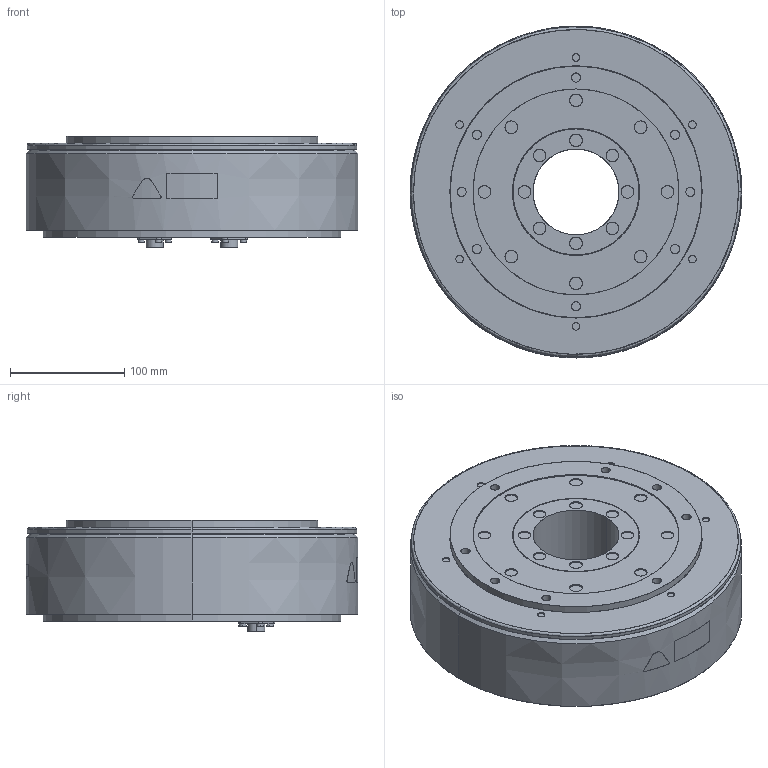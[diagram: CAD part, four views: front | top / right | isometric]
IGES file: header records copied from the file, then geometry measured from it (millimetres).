
Start section: SolidWorks IGES file using analytic representation for surfaces
Bounding box: 290 x 290.2 x 97.1 mm (x, y, z)
Surface area: 234189.5 mm2 (no closed solid volume)
Topology: 0 solids, 0 shells, 336 faces, 6815 edges, 6815 vertices
Faces by surface type: revolution 193, bspline 143
